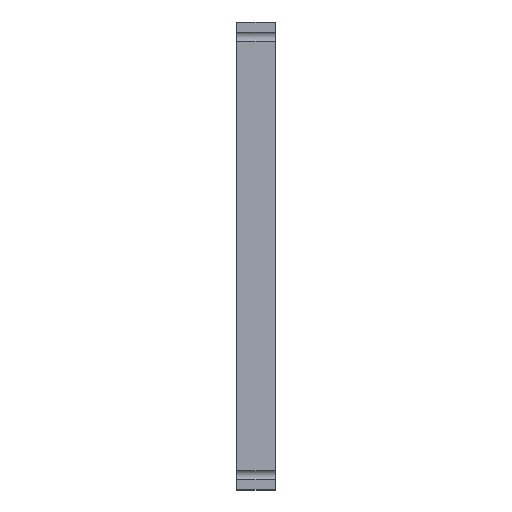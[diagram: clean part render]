
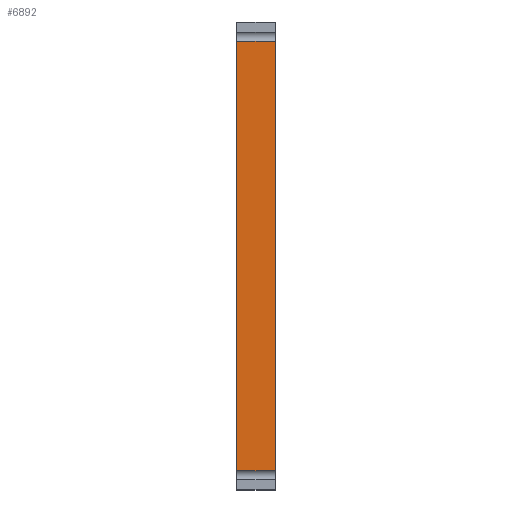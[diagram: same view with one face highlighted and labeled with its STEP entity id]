
A CAD part, front view. The second image highlights one B-rep face of the part: STEP entity #6892.
In plain terms, the highlighted planar face has unit normal (0, -1, 0).
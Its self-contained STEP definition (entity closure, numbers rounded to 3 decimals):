
#378 = ORIENTED_EDGE ( 'NONE', *, *, #1146, .F. ) ;
#1102 = VERTEX_POINT ( 'NONE', #3976 ) ;
#1146 = EDGE_CURVE ( 'NONE', #6880, #7068, #8250, .T. ) ;
#1227 = CARTESIAN_POINT ( 'NONE',  ( -1041.397, 1003.485, 209. ) ) ;
#1504 = DIRECTION ( 'NONE',  ( 0., 0., -1. ) ) ;
#1694 = EDGE_CURVE ( 'NONE', #6880, #4153, #7012, .T. ) ;
#2290 = VECTOR ( 'NONE', #4771, 1000. ) ;
#2506 = CARTESIAN_POINT ( 'NONE',  ( -1041.397, 1003.485, 9. ) ) ;
#2516 = VECTOR ( 'NONE', #5523, 1000. ) ;
#2887 = PLANE ( 'NONE',  #7089 ) ;
#2950 = CARTESIAN_POINT ( 'NONE',  ( -1041.397, 1003.485, 209. ) ) ;
#2958 = CARTESIAN_POINT ( 'NONE',  ( -1041.397, 1003.485, 9. ) ) ;
#3572 = CARTESIAN_POINT ( 'NONE',  ( -1023.397, 1003.485, 218. ) ) ;
#3604 = DIRECTION ( 'NONE',  ( 0., -1., 0. ) ) ;
#3976 = CARTESIAN_POINT ( 'NONE',  ( -1023.397, 1003.485, 9. ) ) ;
#4153 = VERTEX_POINT ( 'NONE', #2506 ) ;
#4509 = DIRECTION ( 'NONE',  ( 1., 0., 0. ) ) ;
#4704 = EDGE_LOOP ( 'NONE', ( #5386, #8724, #378, #6310 ) ) ;
#4771 = DIRECTION ( 'NONE',  ( 0., 0., -1. ) ) ;
#5243 = CARTESIAN_POINT ( 'NONE',  ( -1023.397, 1003.485, 218. ) ) ;
#5386 = ORIENTED_EDGE ( 'NONE', *, *, #6334, .T. ) ;
#5523 = DIRECTION ( 'NONE',  ( 1., 0., 0. ) ) ;
#5873 = DIRECTION ( 'NONE',  ( 0., 0., -1. ) ) ;
#6180 = LINE ( 'NONE', #5243, #7521 ) ;
#6310 = ORIENTED_EDGE ( 'NONE', *, *, #1694, .T. ) ;
#6334 = EDGE_CURVE ( 'NONE', #4153, #1102, #7420, .T. ) ;
#6748 = VECTOR ( 'NONE', #4509, 1000. ) ;
#6880 = VERTEX_POINT ( 'NONE', #2950 ) ;
#6892 = ADVANCED_FACE ( 'NONE', ( #8965 ), #2887, .T. ) ;
#7012 = LINE ( 'NONE', #9114, #2290 ) ;
#7020 = EDGE_CURVE ( 'NONE', #7068, #1102, #6180, .T. ) ;
#7068 = VERTEX_POINT ( 'NONE', #8412 ) ;
#7089 = AXIS2_PLACEMENT_3D ( 'NONE', #3572, #3604, #1504 ) ;
#7420 = LINE ( 'NONE', #2958, #6748 ) ;
#7521 = VECTOR ( 'NONE', #5873, 1000. ) ;
#8250 = LINE ( 'NONE', #1227, #2516 ) ;
#8412 = CARTESIAN_POINT ( 'NONE',  ( -1023.397, 1003.485, 209. ) ) ;
#8724 = ORIENTED_EDGE ( 'NONE', *, *, #7020, .F. ) ;
#8965 = FACE_OUTER_BOUND ( 'NONE', #4704, .T. ) ;
#9114 = CARTESIAN_POINT ( 'NONE',  ( -1041.397, 1003.485, 218. ) ) ;
